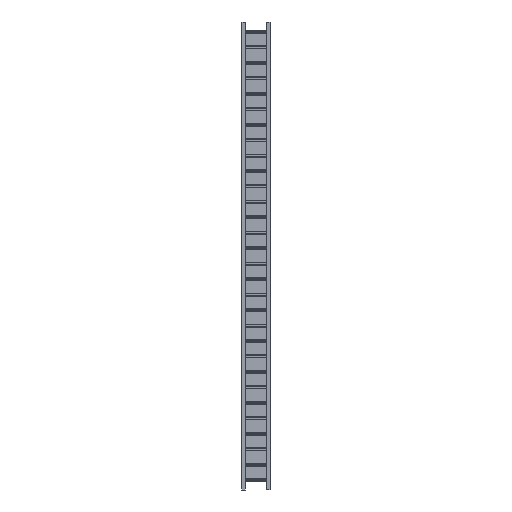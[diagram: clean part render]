
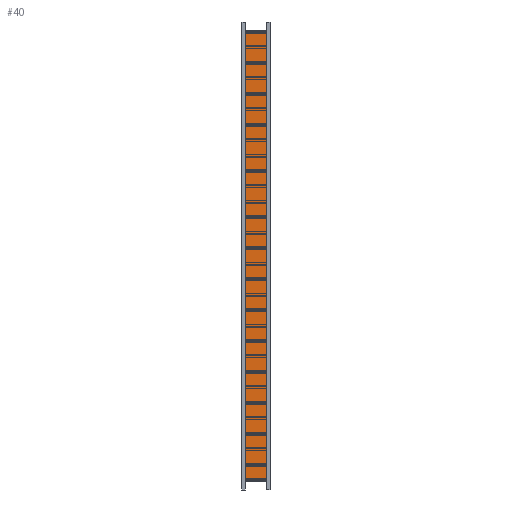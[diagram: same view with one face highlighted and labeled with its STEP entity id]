
A CAD part, front view. The second image highlights one B-rep face of the part: STEP entity #40.
In plain terms, the highlighted planar face has unit normal (0, 1, 0).
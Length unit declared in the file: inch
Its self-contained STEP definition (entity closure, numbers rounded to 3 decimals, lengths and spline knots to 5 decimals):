
#1=DIRECTION('',(0.,0.,-1.));
#2=VECTOR('',#1,226.20047);
#3=CARTESIAN_POINT('',(-6.,-1.,-5.01));
#4=LINE('',#3,#2);
#5=DIRECTION('',(1.,0.,0.));
#6=VECTOR('',#5,12.);
#7=CARTESIAN_POINT('',(-6.,-1.,-231.21047));
#8=LINE('',#7,#6);
#9=DIRECTION('',(0.,0.,1.));
#10=VECTOR('',#9,226.20047);
#11=CARTESIAN_POINT('',(6.,-1.,-231.21047));
#12=LINE('',#11,#10);
#13=DIRECTION('',(-1.,0.,0.));
#14=VECTOR('',#13,12.);
#15=CARTESIAN_POINT('',(6.,-1.,-5.01));
#16=LINE('',#15,#14);
#17=CARTESIAN_POINT('',(-6.,-1.,-231.21047));
#18=CARTESIAN_POINT('',(-6.,-1.,-5.01));
#19=VERTEX_POINT('',#17);
#20=VERTEX_POINT('',#18);
#21=CARTESIAN_POINT('',(6.,-1.,-5.01));
#22=VERTEX_POINT('',#21);
#23=CARTESIAN_POINT('',(6.,-1.,-231.21047));
#24=VERTEX_POINT('',#23);
#25=CARTESIAN_POINT('',(0.,-1.,0.));
#26=DIRECTION('',(0.,1.,0.));
#27=DIRECTION('',(1.,0.,0.));
#28=AXIS2_PLACEMENT_3D('',#25,#26,#27);
#29=PLANE('',#28);
#31=ORIENTED_EDGE('',*,*,#30,.T.);
#33=ORIENTED_EDGE('',*,*,#32,.T.);
#35=ORIENTED_EDGE('',*,*,#34,.T.);
#37=ORIENTED_EDGE('',*,*,#36,.T.);
#38=EDGE_LOOP('',(#31,#33,#35,#37));
#39=FACE_OUTER_BOUND('',#38,.F.);
#40=ADVANCED_FACE('',(#39),#29,.T.);
#30=EDGE_CURVE('',#20,#19,#4,.T.);
#32=EDGE_CURVE('',#19,#24,#8,.T.);
#34=EDGE_CURVE('',#24,#22,#12,.T.);
#36=EDGE_CURVE('',#22,#20,#16,.T.);
